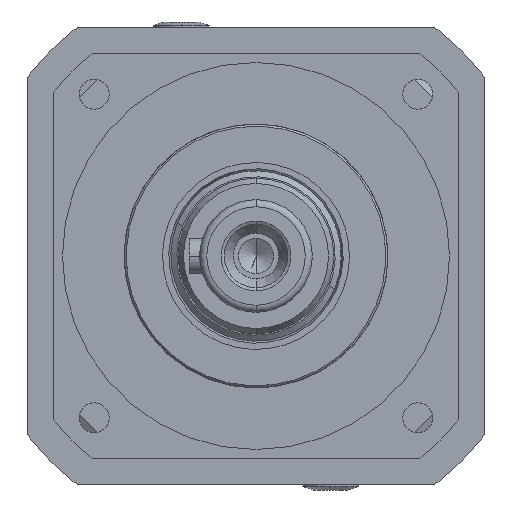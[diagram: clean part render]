
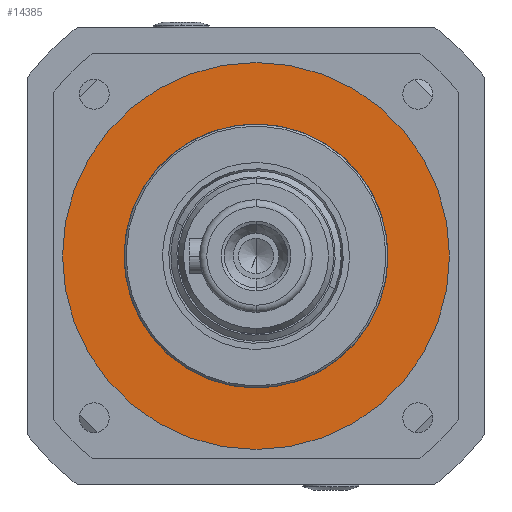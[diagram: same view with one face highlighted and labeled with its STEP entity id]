
A CAD part, left-side view. The second image highlights one B-rep face of the part: STEP entity #14385.
In plain terms, the highlighted planar face has unit normal (-1, 0, 0).
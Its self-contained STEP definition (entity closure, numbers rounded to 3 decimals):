
#1009 = DIRECTION ( 'NONE',  ( 1., 0., 0. ) ) ;
#1027 = AXIS2_PLACEMENT_3D ( 'NONE', #11280, #2539, #12774 ) ;
#1208 = EDGE_CURVE ( 'NONE', #17697, #9087, #15479, .T. ) ;
#1279 = CARTESIAN_POINT ( 'NONE',  ( -67., 0., 55. ) ) ;
#1642 = ORIENTED_EDGE ( 'NONE', *, *, #17921, .F. ) ;
#1909 = CARTESIAN_POINT ( 'NONE',  ( -67., 0., 0. ) ) ;
#2371 = VERTEX_POINT ( 'NONE', #13066 ) ;
#2539 = DIRECTION ( 'NONE',  ( -1., 0., 0. ) ) ;
#3395 = DIRECTION ( 'NONE',  ( 0., 0., 1. ) ) ;
#3623 = VERTEX_POINT ( 'NONE', #1279 ) ;
#3649 = EDGE_CURVE ( 'NONE', #3623, #2371, #18353, .T. ) ;
#3827 = CIRCLE ( 'NONE', #7755, 37.5 ) ;
#3885 = PLANE ( 'NONE',  #17442 ) ;
#4214 = EDGE_LOOP ( 'NONE', ( #1642, #11039 ) ) ;
#4733 = AXIS2_PLACEMENT_3D ( 'NONE', #17459, #8683, #18901 ) ;
#5274 = CARTESIAN_POINT ( 'NONE',  ( -67., 0., 0. ) ) ;
#5317 = ORIENTED_EDGE ( 'NONE', *, *, #17108, .T. ) ;
#5556 = ORIENTED_EDGE ( 'NONE', *, *, #3649, .T. ) ;
#6738 = DIRECTION ( 'NONE',  ( 0., 0., 1. ) ) ;
#7061 = CIRCLE ( 'NONE', #1027, 55. ) ;
#7686 = EDGE_LOOP ( 'NONE', ( #5556, #5317 ) ) ;
#7755 = AXIS2_PLACEMENT_3D ( 'NONE', #5274, #15515, #6738 ) ;
#8683 = DIRECTION ( 'NONE',  ( -1., 0., 0. ) ) ;
#9087 = VERTEX_POINT ( 'NONE', #10052 ) ;
#9752 = CARTESIAN_POINT ( 'NONE',  ( -67., 0., 0. ) ) ;
#10052 = CARTESIAN_POINT ( 'NONE',  ( -67., 0., 37.5 ) ) ;
#11039 = ORIENTED_EDGE ( 'NONE', *, *, #1208, .F. ) ;
#11226 = DIRECTION ( 'NONE',  ( 0., 0., -1. ) ) ;
#11280 = CARTESIAN_POINT ( 'NONE',  ( -67., 0., 0. ) ) ;
#11352 = AXIS2_PLACEMENT_3D ( 'NONE', #1909, #12133, #3395 ) ;
#12133 = DIRECTION ( 'NONE',  ( -1., 0., 0. ) ) ;
#12774 = DIRECTION ( 'NONE',  ( 0., 0., 1. ) ) ;
#13066 = CARTESIAN_POINT ( 'NONE',  ( -67., 0., -55. ) ) ;
#14385 = ADVANCED_FACE ( 'NONE', ( #15172, #15624 ), #3885, .F. ) ;
#15172 = FACE_BOUND ( 'NONE', #4214, .T. ) ;
#15479 = CIRCLE ( 'NONE', #11352, 37.5 ) ;
#15515 = DIRECTION ( 'NONE',  ( -1., 0., 0. ) ) ;
#15624 = FACE_OUTER_BOUND ( 'NONE', #7686, .T. ) ;
#17099 = CARTESIAN_POINT ( 'NONE',  ( -67., 0., -37.5 ) ) ;
#17108 = EDGE_CURVE ( 'NONE', #2371, #3623, #7061, .T. ) ;
#17442 = AXIS2_PLACEMENT_3D ( 'NONE', #9752, #1009, #11226 ) ;
#17459 = CARTESIAN_POINT ( 'NONE',  ( -67., 0., 0. ) ) ;
#17697 = VERTEX_POINT ( 'NONE', #17099 ) ;
#17921 = EDGE_CURVE ( 'NONE', #9087, #17697, #3827, .T. ) ;
#18353 = CIRCLE ( 'NONE', #4733, 55. ) ;
#18901 = DIRECTION ( 'NONE',  ( 0., 0., 1. ) ) ;
